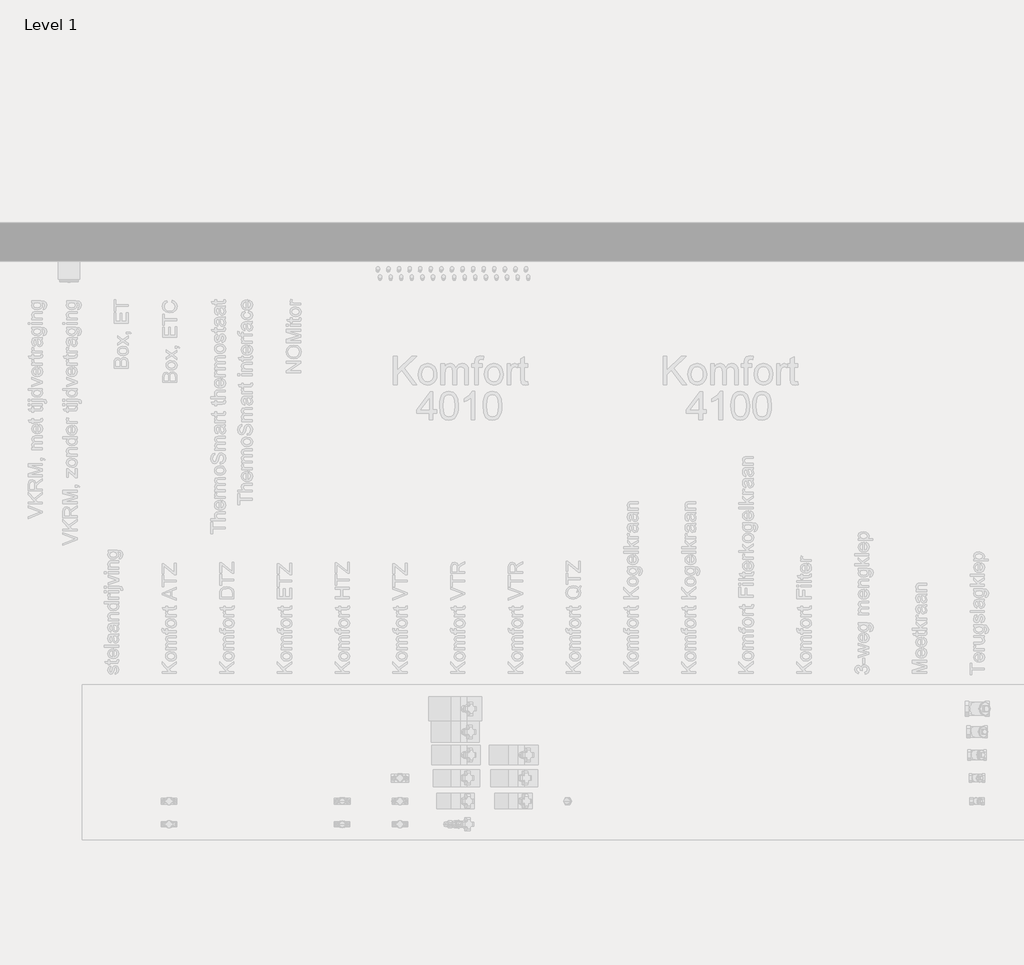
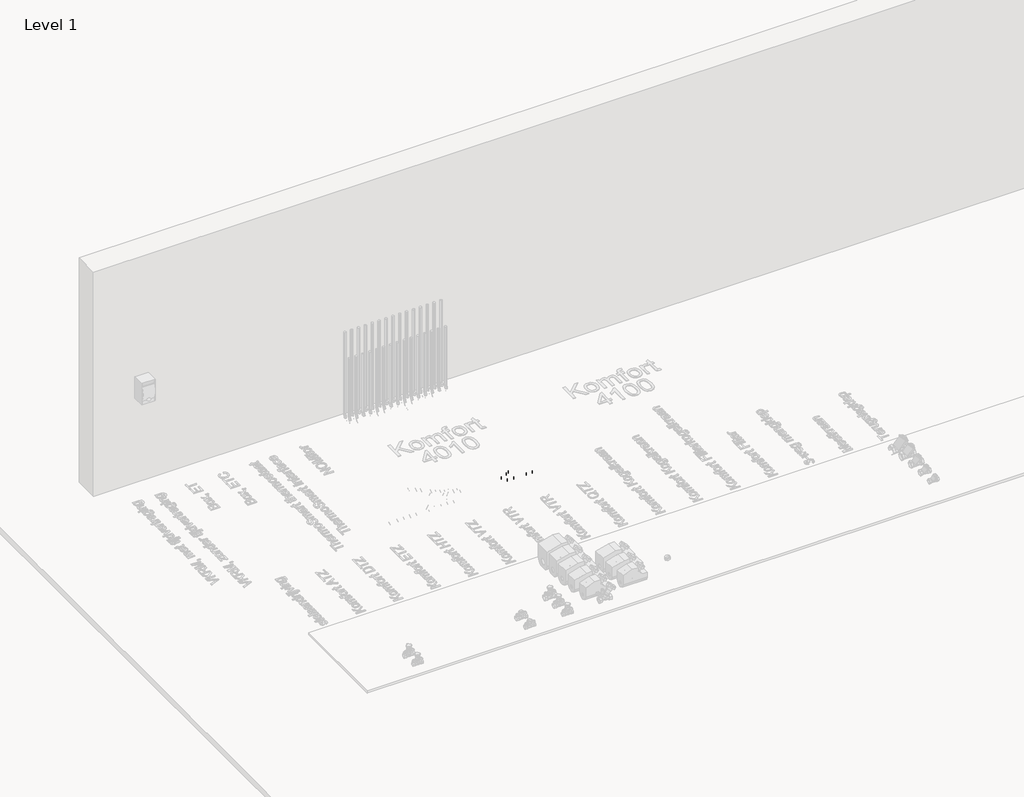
# One storey, part 3 of 34: 34 pipe segments, 32 pipe fittings.
"""IFC4 building model written with IfcOpenShell, lengths in millimetres."""

from ifc_helpers import new_model, si_unit, point, frame, frame_2d, origin, place, context, project, spatial, circle_curve, trimmed, segment, composite_curve, outline, extrude, transform, mapped, element, save
from components import comfort_pipe_plus_fd0ce3be, comfort_pipe_plus_be2692b1, comfort_pipe_plus_e7852c11, comfort_pipe_plus_088f61cb, comfort_pipe_plus_0f36303e, comfort_pipe_plus_3bb60c39, comfort_pipe_plus_d528e45b, comfort_pipe_plus_1a876405, comfort_pipe_plus_ba31a987, comfort_pipe_plus_3dcb67fc, comfort_pipe_plus_28575780, comfort_pipe_plus_d22011a4, comfort_pipe_plus_ddaea543, comfort_pipe_plus_9fd0e97e, comfort_pipe_plus_dd33a695, comfort_pipe_plus_407e4f54

model = new_model("IFC4")

# Units and contexts
model_context = context("Model", 3, world=origin())
ifc_project = project(units=[si_unit("LENGTHUNIT", "METRE", prefix="MILLI")], contexts=[model_context])

# Site, building, storey
site = spatial("IfcSite", under=ifc_project)
building = spatial("IfcBuilding", under=site)
storey = spatial("IfcBuildingStorey", under=building, Name="Level 1", Elevation=0.0)

# Pipe fittings
placement = place(None, origin())
comfort_pipe_plus_shape = comfort_pipe_plus_fd0ce3be(model_context)
element("IfcPipeFitting", 1, ObjectType="400_5-_Uponor_curved_Elbow : Comfort pipe PLUS", at=placement, inside=storey, context=model_context, shape_type="MappedRepresentation", body=[
    mapped(comfort_pipe_plus_shape, transform((-14155.7349522, 6355.7502784, -40.0), x_axis=(0.0, 1.0, 0.0), y_axis=(-1.0, 0.0, 0.0), z_axis=(0.0, 0.0, 1.0))),
])
element("IfcPipeFitting", 2, ObjectType="400_5-_Uponor_curved_Elbow : Comfort pipe PLUS", at=placement, inside=storey, context=model_context, shape_type="MappedRepresentation", body=[
    mapped(comfort_pipe_plus_shape, transform((-14481.9849522, 6605.7502784, -40.0), x_axis=(0.0, -1.0, 0.0), y_axis=(1.0, 0.0, 0.0), z_axis=(0.0, 0.0, 1.0))),
])
comfort_pipe_plus_2_shape = comfort_pipe_plus_be2692b1(model_context)
element("IfcPipeFitting", 3, ObjectType="400_5-_Uponor_curved_Elbow : Comfort pipe PLUS", at=placement, inside=storey, context=model_context, shape_type="MappedRepresentation", body=[
    mapped(comfort_pipe_plus_2_shape, transform((-14855.7349522, 6355.7502784, -40.0), x_axis=(0.0, 1.0, 0.0), y_axis=(-1.0, 0.0, 0.0), z_axis=(0.0, 0.0, 1.0))),
])
element("IfcPipeFitting", 4, ObjectType="400_5-_Uponor_curved_Elbow : Comfort pipe PLUS", at=placement, inside=storey, context=model_context, shape_type="MappedRepresentation", body=[
    mapped(comfort_pipe_plus_2_shape, transform((-14866.9849522, 6405.9403257, -40.0), x_axis=(0.0, -1.0, 0.0), y_axis=(1.0, 0.0, 0.0), z_axis=(0.0, 0.0, 1.0))),
])
comfort_pipe_plus_3_shape = comfort_pipe_plus_e7852c11(model_context)
element("IfcPipeFitting", 5, ObjectType="400_5-_Uponor_curved_Elbow : Comfort pipe PLUS", at=placement, inside=storey, context=model_context, shape_type="MappedRepresentation", body=[
    mapped(comfort_pipe_plus_3_shape, transform((-14805.7349522, 6355.7502784, -40.0), x_axis=(0.0, 1.0, 0.0), y_axis=(-1.0, 0.0, 0.0), z_axis=(0.0, 0.0, 1.0))),
])
element("IfcPipeFitting", 6, ObjectType="400_5-_Uponor_curved_Elbow : Comfort pipe PLUS", at=placement, inside=storey, context=model_context, shape_type="MappedRepresentation", body=[
    mapped(comfort_pipe_plus_3_shape, transform((-14839.4849522, 6407.4633273, -40.0), x_axis=(0.0, -1.0, 0.0), y_axis=(1.0, 0.0, 0.0), z_axis=(0.0, 0.0, 1.0))),
])
comfort_pipe_plus_4_shape = comfort_pipe_plus_088f61cb(model_context)
element("IfcPipeFitting", 7, ObjectType="400_5-_Uponor_curved_Elbow : Comfort pipe PLUS", at=placement, inside=storey, context=model_context, shape_type="MappedRepresentation", body=[
    mapped(comfort_pipe_plus_4_shape, transform((-14755.7349522, 6355.7502784, -40.0), x_axis=(0.0, 1.0, 0.0), y_axis=(-1.0, 0.0, 0.0), z_axis=(0.0, 0.0, 1.0))),
])
element("IfcPipeFitting", 8, ObjectType="400_5-_Uponor_curved_Elbow : Comfort pipe PLUS", at=placement, inside=storey, context=model_context, shape_type="MappedRepresentation", body=[
    mapped(comfort_pipe_plus_4_shape, transform((-14811.9849522, 6410.5234526, -40.0), x_axis=(0.0, -1.0, 0.0), y_axis=(1.0, 0.0, 0.0), z_axis=(0.0, 0.0, 1.0))),
])
comfort_pipe_plus_5_shape = comfort_pipe_plus_0f36303e(model_context)
element("IfcPipeFitting", 9, ObjectType="400_5-_Uponor_curved_Elbow : Comfort pipe PLUS", at=placement, inside=storey, context=model_context, shape_type="MappedRepresentation", body=[
    mapped(comfort_pipe_plus_5_shape, transform((-14705.7349522, 6355.7502784, -40.0), x_axis=(0.0, 1.0, 0.0), y_axis=(-1.0, 0.0, 0.0), z_axis=(0.0, 0.0, 1.0))),
])
element("IfcPipeFitting", 10, ObjectType="400_5-_Uponor_curved_Elbow : Comfort pipe PLUS", at=placement, inside=storey, context=model_context, shape_type="MappedRepresentation", body=[
    mapped(comfort_pipe_plus_5_shape, transform((-14784.4849522, 6415.1496116, -40.0), x_axis=(0.0, -1.0, 0.0), y_axis=(1.0, 0.0, 0.0), z_axis=(0.0, 0.0, 1.0))),
])
comfort_pipe_plus_6_shape = comfort_pipe_plus_3bb60c39(model_context)
element("IfcPipeFitting", 11, ObjectType="400_5-_Uponor_curved_Elbow : Comfort pipe PLUS", at=placement, inside=storey, context=model_context, shape_type="MappedRepresentation", body=[
    mapped(comfort_pipe_plus_6_shape, transform((-14655.7349522, 6355.7502784, -40.0), x_axis=(0.0, 1.0, 0.0), y_axis=(-1.0, 0.0, 0.0), z_axis=(0.0, 0.0, 1.0))),
])
element("IfcPipeFitting", 12, ObjectType="400_5-_Uponor_curved_Elbow : Comfort pipe PLUS", at=placement, inside=storey, context=model_context, shape_type="MappedRepresentation", body=[
    mapped(comfort_pipe_plus_6_shape, transform((-14756.9849522, 6421.386906, -40.0), x_axis=(0.0, -1.0, 0.0), y_axis=(1.0, 0.0, 0.0), z_axis=(0.0, 0.0, 1.0))),
])
comfort_pipe_plus_7_shape = comfort_pipe_plus_d528e45b(model_context)
element("IfcPipeFitting", 13, ObjectType="400_5-_Uponor_curved_Elbow : Comfort pipe PLUS", at=placement, inside=storey, context=model_context, shape_type="MappedRepresentation", body=[
    mapped(comfort_pipe_plus_7_shape, transform((-14605.7349522, 6355.7502784, -40.0), x_axis=(0.0, 1.0, 0.0), y_axis=(-1.0, 0.0, 0.0), z_axis=(0.0, 0.0, 1.0))),
])
element("IfcPipeFitting", 14, ObjectType="400_5-_Uponor_curved_Elbow : Comfort pipe PLUS", at=placement, inside=storey, context=model_context, shape_type="MappedRepresentation", body=[
    mapped(comfort_pipe_plus_7_shape, transform((-14729.4849522, 6429.2989396, -40.0), x_axis=(0.0, -1.0, 0.0), y_axis=(1.0, 0.0, 0.0), z_axis=(0.0, 0.0, 1.0))),
])
comfort_pipe_plus_8_shape = comfort_pipe_plus_1a876405(model_context)
element("IfcPipeFitting", 15, ObjectType="400_5-_Uponor_curved_Elbow : Comfort pipe PLUS", at=placement, inside=storey, context=model_context, shape_type="MappedRepresentation", body=[
    mapped(comfort_pipe_plus_8_shape, transform((-14555.7349522, 6355.7502784, -40.0), x_axis=(0.0, 1.0, 0.0), y_axis=(-1.0, 0.0, 0.0), z_axis=(0.0, 0.0, 1.0))),
])
element("IfcPipeFitting", 16, ObjectType="400_5-_Uponor_curved_Elbow : Comfort pipe PLUS", at=placement, inside=storey, context=model_context, shape_type="MappedRepresentation", body=[
    mapped(comfort_pipe_plus_8_shape, transform((-14701.9849522, 6438.9713245, -40.0), x_axis=(0.0, -1.0, 0.0), y_axis=(1.0, 0.0, 0.0), z_axis=(0.0, 0.0, 1.0))),
])
comfort_pipe_plus_9_shape = comfort_pipe_plus_ba31a987(model_context)
element("IfcPipeFitting", 17, ObjectType="400_5-_Uponor_curved_Elbow : Comfort pipe PLUS", at=placement, inside=storey, context=model_context, shape_type="MappedRepresentation", body=[
    mapped(comfort_pipe_plus_9_shape, transform((-14505.7349522, 6355.7502784, -40.0), x_axis=(0.0, 1.0, 0.0), y_axis=(-1.0, 0.0, 0.0), z_axis=(0.0, 0.0, 1.0))),
])
element("IfcPipeFitting", 18, ObjectType="400_5-_Uponor_curved_Elbow : Comfort pipe PLUS", at=placement, inside=storey, context=model_context, shape_type="MappedRepresentation", body=[
    mapped(comfort_pipe_plus_9_shape, transform((-14674.4849522, 6450.516872, -40.0), x_axis=(0.0, -1.0, 0.0), y_axis=(1.0, 0.0, 0.0), z_axis=(0.0, 0.0, 1.0))),
])
comfort_pipe_plus_10_shape = comfort_pipe_plus_3dcb67fc(model_context)
element("IfcPipeFitting", 19, ObjectType="400_5-_Uponor_curved_Elbow : Comfort pipe PLUS", at=placement, inside=storey, context=model_context, shape_type="MappedRepresentation", body=[
    mapped(comfort_pipe_plus_10_shape, transform((-14455.7349522, 6355.7502784, -40.0), x_axis=(0.0, 1.0, 0.0), y_axis=(-1.0, 0.0, 0.0), z_axis=(0.0, 0.0, 1.0))),
])
element("IfcPipeFitting", 20, ObjectType="400_5-_Uponor_curved_Elbow : Comfort pipe PLUS", at=placement, inside=storey, context=model_context, shape_type="MappedRepresentation", body=[
    mapped(comfort_pipe_plus_10_shape, transform((-14646.9849522, 6464.0832905, -40.0), x_axis=(0.0, -1.0, 0.0), y_axis=(1.0, 0.0, 0.0), z_axis=(0.0, 0.0, 1.0))),
])
comfort_pipe_plus_11_shape = comfort_pipe_plus_28575780(model_context)
element("IfcPipeFitting", 21, ObjectType="400_5-_Uponor_curved_Elbow : Comfort pipe PLUS", at=placement, inside=storey, context=model_context, shape_type="MappedRepresentation", body=[
    mapped(comfort_pipe_plus_11_shape, transform((-14405.7349522, 6355.7502784, -40.0), x_axis=(0.0, 1.0, 0.0), y_axis=(-1.0, 0.0, 0.0), z_axis=(0.0, 0.0, 1.0))),
])
element("IfcPipeFitting", 22, ObjectType="400_5-_Uponor_curved_Elbow : Comfort pipe PLUS", at=placement, inside=storey, context=model_context, shape_type="MappedRepresentation", body=[
    mapped(comfort_pipe_plus_11_shape, transform((-14619.4849522, 6479.8647962, -40.0), x_axis=(0.0, -1.0, 0.0), y_axis=(1.0, 0.0, 0.0), z_axis=(0.0, 0.0, 1.0))),
])
comfort_pipe_plus_12_shape = comfort_pipe_plus_d22011a4(model_context)
element("IfcPipeFitting", 23, ObjectType="400_5-_Uponor_curved_Elbow : Comfort pipe PLUS", at=placement, inside=storey, context=model_context, shape_type="MappedRepresentation", body=[
    mapped(comfort_pipe_plus_12_shape, transform((-14355.7349522, 6355.7502784, -40.0), x_axis=(0.0, 1.0, 0.0), y_axis=(-1.0, 0.0, 0.0), z_axis=(0.0, 0.0, 1.0))),
])
element("IfcPipeFitting", 24, ObjectType="400_5-_Uponor_curved_Elbow : Comfort pipe PLUS", at=placement, inside=storey, context=model_context, shape_type="MappedRepresentation", body=[
    mapped(comfort_pipe_plus_12_shape, transform((-14591.9849522, 6498.1201645, -40.0), x_axis=(0.0, -1.0, 0.0), y_axis=(1.0, 0.0, 0.0), z_axis=(0.0, 0.0, 1.0))),
])
comfort_pipe_plus_13_shape = comfort_pipe_plus_ddaea543(model_context)
element("IfcPipeFitting", 25, ObjectType="400_5-_Uponor_curved_Elbow : Comfort pipe PLUS", at=placement, inside=storey, context=model_context, shape_type="MappedRepresentation", body=[
    mapped(comfort_pipe_plus_13_shape, transform((-14305.7349522, 6355.7502784, -40.0), x_axis=(0.0, 1.0, 0.0), y_axis=(-1.0, 0.0, 0.0), z_axis=(0.0, 0.0, 1.0))),
])
element("IfcPipeFitting", 26, ObjectType="400_5-_Uponor_curved_Elbow : Comfort pipe PLUS", at=placement, inside=storey, context=model_context, shape_type="MappedRepresentation", body=[
    mapped(comfort_pipe_plus_13_shape, transform((-14564.4849522, 6519.2020082, -40.0), x_axis=(0.0, -1.0, 0.0), y_axis=(1.0, 0.0, 0.0), z_axis=(0.0, 0.0, 1.0))),
])
comfort_pipe_plus_14_shape = comfort_pipe_plus_9fd0e97e(model_context)
element("IfcPipeFitting", 27, ObjectType="400_5-_Uponor_curved_Elbow : Comfort pipe PLUS", at=placement, inside=storey, context=model_context, shape_type="MappedRepresentation", body=[
    mapped(comfort_pipe_plus_14_shape, transform((-14255.7349522, 6355.7502784, -40.0), x_axis=(0.0, 1.0, 0.0), y_axis=(-1.0, 0.0, 0.0), z_axis=(0.0, 0.0, 1.0))),
])
element("IfcPipeFitting", 28, ObjectType="400_5-_Uponor_curved_Elbow : Comfort pipe PLUS", at=placement, inside=storey, context=model_context, shape_type="MappedRepresentation", body=[
    mapped(comfort_pipe_plus_14_shape, transform((-14536.9849522, 6543.6070322, -40.0), x_axis=(0.0, -1.0, 0.0), y_axis=(1.0, 0.0, 0.0), z_axis=(0.0, 0.0, 1.0))),
])
comfort_pipe_plus_15_shape = comfort_pipe_plus_dd33a695(model_context)
element("IfcPipeFitting", 29, ObjectType="400_5-_Uponor_curved_Elbow : Comfort pipe PLUS", at=placement, inside=storey, context=model_context, shape_type="MappedRepresentation", body=[
    mapped(comfort_pipe_plus_15_shape, transform((-14205.7349522, 6355.7502784, -40.0), x_axis=(0.0, 1.0, 0.0), y_axis=(-1.0, 0.0, 0.0), z_axis=(0.0, 0.0, 1.0))),
])
element("IfcPipeFitting", 30, ObjectType="400_5-_Uponor_curved_Elbow : Comfort pipe PLUS", at=placement, inside=storey, context=model_context, shape_type="MappedRepresentation", body=[
    mapped(comfort_pipe_plus_15_shape, transform((-14509.4849522, 6572.0690789, -40.0), x_axis=(0.0, -1.0, 0.0), y_axis=(1.0, 0.0, 0.0), z_axis=(0.0, 0.0, 1.0))),
])
comfort_pipe_plus_16_shape = comfort_pipe_plus_407e4f54(model_context)
element("IfcPipeFitting", 31, ObjectType="400_5-_Uponor_curved_Elbow : Comfort pipe PLUS", at=placement, inside=storey, context=model_context, shape_type="MappedRepresentation", body=[
    mapped(comfort_pipe_plus_16_shape, transform((-14905.7349522, 6355.7502784, -40.0), x_axis=(0.0, 1.0, 0.0), y_axis=(-1.0, 0.0, 0.0), z_axis=(0.0, 0.0, 1.0))),
])
element("IfcPipeFitting", 32, ObjectType="400_5-_Uponor_curved_Elbow : Comfort pipe PLUS", at=placement, inside=storey, context=model_context, shape_type="MappedRepresentation", body=[
    mapped(comfort_pipe_plus_16_shape, transform((-14894.4849522, 6405.9403257, -40.0), x_axis=(0.0, -1.0, 0.0), y_axis=(1.0, 0.0, 0.0), z_axis=(0.0, 0.0, 1.0))),
])

# Pipe segments
element("IfcPipeSegment", 33, ObjectType="Uponor Comfort Pipe PLUS / VVL", at=placement, inside=storey, context=model_context, shape_type="SweptSolid", body=[
    extrude(outline(composite_curve([segment(trimmed(circle_curve(frame_2d((-40.0, -14555.7349522)), 8.5), [point((-40.0, -14564.2349522))], [point((-48.5, -14555.7349522))], False, "CARTESIAN"), True, "CONTINUOUS"), segment(trimmed(circle_curve(frame_2d((-40.0, -14555.7349522)), 8.5), [point((-48.5, -14555.7349522))], [point((-40.0, -14547.2349522))], False, "CARTESIAN"), True, "CONTINUOUS"), segment(trimmed(circle_curve(frame_2d((-40.0, -14555.7349522)), 8.5), [point((-40.0, -14547.2349522))], [point((-31.5, -14555.7349522))], False, "CARTESIAN"), True, "CONTINUOUS"), segment(trimmed(circle_curve(frame_2d((-40.0, -14555.7349522)), 8.5), [point((-31.5, -14555.7349522))], [point((-40.0, -14564.2349522))], False, "CARTESIAN"), True, "CONTINUOUS")], self_intersect=False)), frame((0.0, 6175.7502784, 0.0), z_axis=(0.0, 1.0, 0.0), x_axis=(0.0, 0.0, 1.0)), (0.0, 0.0, 1.0), 139.2927912),
])
element("IfcPipeSegment", 34, ObjectType="Uponor Comfort Pipe PLUS / VVL", at=placement, inside=storey, context=model_context, shape_type="SweptSolid", body=[
    extrude(outline(composite_curve([segment(trimmed(circle_curve(frame_2d((-40.0, -14455.7349522)), 8.5), [point((-40.0, -14464.2349522))], [point((-48.5, -14455.7349522))], False, "CARTESIAN"), True, "CONTINUOUS"), segment(trimmed(circle_curve(frame_2d((-40.0, -14455.7349522)), 8.5), [point((-48.5, -14455.7349522))], [point((-40.0, -14447.2349522))], False, "CARTESIAN"), True, "CONTINUOUS"), segment(trimmed(circle_curve(frame_2d((-40.0, -14455.7349522)), 8.5), [point((-40.0, -14447.2349522))], [point((-31.5, -14455.7349522))], False, "CARTESIAN"), True, "CONTINUOUS"), segment(trimmed(circle_curve(frame_2d((-40.0, -14455.7349522)), 8.5), [point((-31.5, -14455.7349522))], [point((-40.0, -14464.2349522))], False, "CARTESIAN"), True, "CONTINUOUS")], self_intersect=False)), frame((0.0, 6175.7502784, 0.0), z_axis=(0.0, 1.0, 0.0), x_axis=(0.0, 0.0, 1.0)), (0.0, 0.0, 1.0), 139.2011558),
])
element("IfcPipeSegment", 35, ObjectType="Uponor Comfort Pipe PLUS / VVL", at=placement, inside=storey, context=model_context, shape_type="SweptSolid", body=[
    extrude(outline(composite_curve([segment(trimmed(circle_curve(frame_2d((-40.0, -14355.7349522)), 8.5), [point((-40.0, -14364.2349522))], [point((-48.5, -14355.7349522))], False, "CARTESIAN"), True, "CONTINUOUS"), segment(trimmed(circle_curve(frame_2d((-40.0, -14355.7349522)), 8.5), [point((-48.5, -14355.7349522))], [point((-40.0, -14347.2349522))], False, "CARTESIAN"), True, "CONTINUOUS"), segment(trimmed(circle_curve(frame_2d((-40.0, -14355.7349522)), 8.5), [point((-40.0, -14347.2349522))], [point((-31.5, -14355.7349522))], False, "CARTESIAN"), True, "CONTINUOUS"), segment(trimmed(circle_curve(frame_2d((-40.0, -14355.7349522)), 8.5), [point((-31.5, -14355.7349522))], [point((-40.0, -14364.2349522))], False, "CARTESIAN"), True, "CONTINUOUS")], self_intersect=False)), frame((0.0, 6175.7502784, 0.0), z_axis=(0.0, 1.0, 0.0), x_axis=(0.0, 0.0, 1.0)), (0.0, 0.0, 1.0), 140.4556943),
])
element("IfcPipeSegment", 36, ObjectType="Uponor Comfort Pipe PLUS / VVL", at=placement, inside=storey, context=model_context, shape_type="SweptSolid", body=[
    extrude(outline(composite_curve([segment(trimmed(circle_curve(frame_2d((-40.0, -14255.7349522)), 8.5), [point((-40.0, -14264.2349522))], [point((-48.5, -14255.7349522))], False, "CARTESIAN"), True, "CONTINUOUS"), segment(trimmed(circle_curve(frame_2d((-40.0, -14255.7349522)), 8.5), [point((-48.5, -14255.7349522))], [point((-40.0, -14247.2349522))], False, "CARTESIAN"), True, "CONTINUOUS"), segment(trimmed(circle_curve(frame_2d((-40.0, -14255.7349522)), 8.5), [point((-40.0, -14247.2349522))], [point((-31.5, -14255.7349522))], False, "CARTESIAN"), True, "CONTINUOUS"), segment(trimmed(circle_curve(frame_2d((-40.0, -14255.7349522)), 8.5), [point((-31.5, -14255.7349522))], [point((-40.0, -14264.2349522))], False, "CARTESIAN"), True, "CONTINUOUS")], self_intersect=False)), frame((0.0, 6175.7502784, 0.0), z_axis=(0.0, 1.0, 0.0), x_axis=(0.0, 0.0, 1.0)), (0.0, 0.0, 1.0), 142.5766436),
])
element("IfcPipeSegment", 37, ObjectType="Uponor Comfort Pipe PLUS / VVL", at=placement, inside=storey, context=model_context, shape_type="SweptSolid", body=[
    extrude(outline(composite_curve([segment(trimmed(circle_curve(frame_2d((-40.0, -14155.7349522)), 8.5), [point((-40.0, -14164.2349522))], [point((-48.5, -14155.7349522))], False, "CARTESIAN"), True, "CONTINUOUS"), segment(trimmed(circle_curve(frame_2d((-40.0, -14155.7349522)), 8.5), [point((-48.5, -14155.7349522))], [point((-40.0, -14147.2349522))], False, "CARTESIAN"), True, "CONTINUOUS"), segment(trimmed(circle_curve(frame_2d((-40.0, -14155.7349522)), 8.5), [point((-40.0, -14147.2349522))], [point((-31.5, -14155.7349522))], False, "CARTESIAN"), True, "CONTINUOUS"), segment(trimmed(circle_curve(frame_2d((-40.0, -14155.7349522)), 8.5), [point((-31.5, -14155.7349522))], [point((-40.0, -14164.2349522))], False, "CARTESIAN"), True, "CONTINUOUS")], self_intersect=False)), frame((0.0, 6175.7502784, 0.0), z_axis=(0.0, 1.0, 0.0), x_axis=(0.0, 0.0, 1.0)), (0.0, 0.0, 1.0), 145.4512241),
])
element("IfcPipeSegment", 38, ObjectType="Uponor Comfort Pipe PLUS / VVL", at=placement, inside=storey, context=model_context, shape_type="SweptSolid", body=[
    extrude(outline(composite_curve([segment(trimmed(circle_curve(frame_2d((-40.0, -14805.7349522)), 8.5), [point((-40.0, -14814.2349522))], [point((-48.5, -14805.7349522))], False, "CARTESIAN"), True, "CONTINUOUS"), segment(trimmed(circle_curve(frame_2d((-40.0, -14805.7349522)), 8.5), [point((-48.5, -14805.7349522))], [point((-40.0, -14797.2349522))], False, "CARTESIAN"), True, "CONTINUOUS"), segment(trimmed(circle_curve(frame_2d((-40.0, -14805.7349522)), 8.5), [point((-40.0, -14797.2349522))], [point((-31.5, -14805.7349522))], False, "CARTESIAN"), True, "CONTINUOUS"), segment(trimmed(circle_curve(frame_2d((-40.0, -14805.7349522)), 8.5), [point((-31.5, -14805.7349522))], [point((-40.0, -14814.2349522))], False, "CARTESIAN"), True, "CONTINUOUS")], self_intersect=False)), frame((0.0, 6175.7502784, 0.0), z_axis=(0.0, 1.0, 0.0), x_axis=(0.0, 0.0, 1.0)), (0.0, 0.0, 1.0), 159.178599),
])
element("IfcPipeSegment", 39, ObjectType="Uponor Comfort Pipe PLUS / VVL", at=placement, inside=storey, context=model_context, shape_type="SweptSolid", body=[
    extrude(outline(composite_curve([segment(trimmed(circle_curve(frame_2d((-40.0, -14705.7349522)), 8.5), [point((-40.0, -14714.2349522))], [point((-48.5, -14705.7349522))], False, "CARTESIAN"), True, "CONTINUOUS"), segment(trimmed(circle_curve(frame_2d((-40.0, -14705.7349522)), 8.5), [point((-48.5, -14705.7349522))], [point((-40.0, -14697.2349522))], False, "CARTESIAN"), True, "CONTINUOUS"), segment(trimmed(circle_curve(frame_2d((-40.0, -14705.7349522)), 8.5), [point((-40.0, -14697.2349522))], [point((-31.5, -14705.7349522))], False, "CARTESIAN"), True, "CONTINUOUS"), segment(trimmed(circle_curve(frame_2d((-40.0, -14705.7349522)), 8.5), [point((-31.5, -14705.7349522))], [point((-40.0, -14714.2349522))], False, "CARTESIAN"), True, "CONTINUOUS")], self_intersect=False)), frame((0.0, 6175.7502784, 0.0), z_axis=(0.0, 1.0, 0.0), x_axis=(0.0, 0.0, 1.0)), (0.0, 0.0, 1.0), 145.1194357),
])
element("IfcPipeSegment", 40, ObjectType="Uponor Comfort Pipe PLUS / VVL", at=placement, inside=storey, context=model_context, shape_type="SweptSolid", body=[
    extrude(outline(composite_curve([segment(trimmed(circle_curve(frame_2d((-40.0, -14605.7349522)), 8.5), [point((-40.0, -14614.2349522))], [point((-48.5, -14605.7349522))], False, "CARTESIAN"), True, "CONTINUOUS"), segment(trimmed(circle_curve(frame_2d((-40.0, -14605.7349522)), 8.5), [point((-48.5, -14605.7349522))], [point((-40.0, -14597.2349522))], False, "CARTESIAN"), True, "CONTINUOUS"), segment(trimmed(circle_curve(frame_2d((-40.0, -14605.7349522)), 8.5), [point((-40.0, -14597.2349522))], [point((-31.5, -14605.7349522))], False, "CARTESIAN"), True, "CONTINUOUS"), segment(trimmed(circle_curve(frame_2d((-40.0, -14605.7349522)), 8.5), [point((-31.5, -14605.7349522))], [point((-40.0, -14614.2349522))], False, "CARTESIAN"), True, "CONTINUOUS")], self_intersect=False)), frame((0.0, 6175.7502784, 0.0), z_axis=(0.0, 1.0, 0.0), x_axis=(0.0, 0.0, 1.0)), (0.0, 0.0, 1.0), 140.1733552),
])
element("IfcPipeSegment", 41, ObjectType="Uponor Comfort Pipe PLUS / VVL", at=placement, inside=storey, context=model_context, shape_type="SweptSolid", body=[
    extrude(outline(composite_curve([segment(trimmed(circle_curve(frame_2d((-40.0, -14505.7349522)), 8.5), [point((-40.0, -14514.2349522))], [point((-48.5, -14505.7349522))], False, "CARTESIAN"), True, "CONTINUOUS"), segment(trimmed(circle_curve(frame_2d((-40.0, -14505.7349522)), 8.5), [point((-48.5, -14505.7349522))], [point((-40.0, -14497.2349522))], False, "CARTESIAN"), True, "CONTINUOUS"), segment(trimmed(circle_curve(frame_2d((-40.0, -14505.7349522)), 8.5), [point((-40.0, -14497.2349522))], [point((-31.5, -14505.7349522))], False, "CARTESIAN"), True, "CONTINUOUS"), segment(trimmed(circle_curve(frame_2d((-40.0, -14505.7349522)), 8.5), [point((-31.5, -14505.7349522))], [point((-40.0, -14514.2349522))], False, "CARTESIAN"), True, "CONTINUOUS")], self_intersect=False)), frame((0.0, 6175.7502784, 0.0), z_axis=(0.0, 1.0, 0.0), x_axis=(0.0, 0.0, 1.0)), (0.0, 0.0, 1.0), 139.0278227),
])
element("IfcPipeSegment", 42, ObjectType="Uponor Comfort Pipe PLUS / VVL", at=placement, inside=storey, context=model_context, shape_type="SweptSolid", body=[
    extrude(outline(composite_curve([segment(trimmed(circle_curve(frame_2d((-40.0, -14405.7349522)), 8.5), [point((-40.0, -14414.2349522))], [point((-48.5, -14405.7349522))], False, "CARTESIAN"), True, "CONTINUOUS"), segment(trimmed(circle_curve(frame_2d((-40.0, -14405.7349522)), 8.5), [point((-48.5, -14405.7349522))], [point((-40.0, -14397.2349522))], False, "CARTESIAN"), True, "CONTINUOUS"), segment(trimmed(circle_curve(frame_2d((-40.0, -14405.7349522)), 8.5), [point((-40.0, -14397.2349522))], [point((-31.5, -14405.7349522))], False, "CARTESIAN"), True, "CONTINUOUS"), segment(trimmed(circle_curve(frame_2d((-40.0, -14405.7349522)), 8.5), [point((-31.5, -14405.7349522))], [point((-40.0, -14414.2349522))], False, "CARTESIAN"), True, "CONTINUOUS")], self_intersect=False)), frame((0.0, 6175.7502784, 0.0), z_axis=(0.0, 1.0, 0.0), x_axis=(0.0, 0.0, 1.0)), (0.0, 0.0, 1.0), 139.7008192),
])
element("IfcPipeSegment", 43, ObjectType="Uponor Comfort Pipe PLUS / VVL", at=placement, inside=storey, context=model_context, shape_type="SweptSolid", body=[
    extrude(outline(composite_curve([segment(trimmed(circle_curve(frame_2d((-40.0, -14305.7349522)), 8.5), [point((-40.0, -14314.2349522))], [point((-48.5, -14305.7349522))], False, "CARTESIAN"), True, "CONTINUOUS"), segment(trimmed(circle_curve(frame_2d((-40.0, -14305.7349522)), 8.5), [point((-48.5, -14305.7349522))], [point((-40.0, -14297.2349522))], False, "CARTESIAN"), True, "CONTINUOUS"), segment(trimmed(circle_curve(frame_2d((-40.0, -14305.7349522)), 8.5), [point((-40.0, -14297.2349522))], [point((-31.5, -14305.7349522))], False, "CARTESIAN"), True, "CONTINUOUS"), segment(trimmed(circle_curve(frame_2d((-40.0, -14305.7349522)), 8.5), [point((-31.5, -14305.7349522))], [point((-40.0, -14314.2349522))], False, "CARTESIAN"), True, "CONTINUOUS")], self_intersect=False)), frame((0.0, 6175.7502784, 0.0), z_axis=(0.0, 1.0, 0.0), x_axis=(0.0, 0.0, 1.0)), (0.0, 0.0, 1.0), 141.4220591),
])
element("IfcPipeSegment", 44, ObjectType="Uponor Comfort Pipe PLUS / VVL", at=placement, inside=storey, context=model_context, shape_type="SweptSolid", body=[
    extrude(outline(composite_curve([segment(trimmed(circle_curve(frame_2d((-40.0, -14205.7349522)), 8.5), [point((-40.0, -14214.2349522))], [point((-48.5, -14205.7349522))], False, "CARTESIAN"), True, "CONTINUOUS"), segment(trimmed(circle_curve(frame_2d((-40.0, -14205.7349522)), 8.5), [point((-48.5, -14205.7349522))], [point((-40.0, -14197.2349522))], False, "CARTESIAN"), True, "CONTINUOUS"), segment(trimmed(circle_curve(frame_2d((-40.0, -14205.7349522)), 8.5), [point((-40.0, -14197.2349522))], [point((-31.5, -14205.7349522))], False, "CARTESIAN"), True, "CONTINUOUS"), segment(trimmed(circle_curve(frame_2d((-40.0, -14205.7349522)), 8.5), [point((-31.5, -14205.7349522))], [point((-40.0, -14214.2349522))], False, "CARTESIAN"), True, "CONTINUOUS")], self_intersect=False)), frame((0.0, 6175.7502784, 0.0), z_axis=(0.0, 1.0, 0.0), x_axis=(0.0, 0.0, 1.0)), (0.0, 0.0, 1.0), 143.9143697),
])
element("IfcPipeSegment", 45, ObjectType="Uponor Comfort Pipe PLUS / VVL", at=placement, inside=storey, context=model_context, shape_type="SweptSolid", body=[
    extrude(outline(composite_curve([segment(trimmed(circle_curve(frame_2d((0.0, 8.5)), 8.5), [point((8.5, 8.5))], [point((0.0, 0.0))], False, "CARTESIAN"), True, "CONTINUOUS"), segment(trimmed(circle_curve(frame_2d((0.0, 8.5)), 8.5), [point((0.0, 0.0))], [point((-8.5, 8.5))], False, "CARTESIAN"), True, "CONTINUOUS"), segment(trimmed(circle_curve(frame_2d((0.0, 8.5)), 8.5), [point((-8.5, 8.5))], [point((0.0, 17.0))], False, "CARTESIAN"), True, "CONTINUOUS"), segment(trimmed(circle_curve(frame_2d((0.0, 8.5)), 8.5), [point((0.0, 17.0))], [point((8.5, 8.5))], False, "CARTESIAN"), True, "CONTINUOUS")], self_intersect=False)), frame((-14183.1581531, 6376.7642254, -31.5), z_axis=(-0.7937531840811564, 0.6082399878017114, 0.0), x_axis=(0.6082399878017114, 0.7937531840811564, 0.0)), (0.0, 0.0, 1.0), 341.9244215),
])
element("IfcPipeSegment", 46, ObjectType="Uponor Comfort Pipe PLUS / VVL", at=placement, inside=storey, context=model_context, shape_type="SweptSolid", body=[
    extrude(outline(composite_curve([segment(trimmed(circle_curve(frame_2d((0.0, 8.5)), 8.5), [point((8.5000001, 8.5))], [point((0.0, 0.0))], False, "CARTESIAN"), True, "CONTINUOUS"), segment(trimmed(circle_curve(frame_2d((0.0, 8.5)), 8.5), [point((0.0, 0.0))], [point((-8.5, 8.5))], False, "CARTESIAN"), True, "CONTINUOUS"), segment(trimmed(circle_curve(frame_2d((0.0, 8.5)), 8.5), [point((-8.5, 8.5))], [point((0.0, 17.0))], False, "CARTESIAN"), True, "CONTINUOUS"), segment(trimmed(circle_curve(frame_2d((0.0, 8.5)), 8.5), [point((0.0, 17.0))], [point((8.5000001, 8.5))], False, "CARTESIAN"), True, "CONTINUOUS")], self_intersect=False)), frame((-14857.429829, 6363.3116957, -31.5), z_axis=(-0.21872083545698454, 0.9757874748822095, 0.0), x_axis=(0.9757874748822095, 0.21872083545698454, 0.0)), (0.0, 0.0, 1.0), 35.9373467),
])
element("IfcPipeSegment", 47, ObjectType="Uponor Comfort Pipe PLUS / VVL", at=placement, inside=storey, context=model_context, shape_type="SweptSolid", body=[
    extrude(outline(composite_curve([segment(trimmed(circle_curve(frame_2d((0.0, 8.5)), 8.5), [point((8.5, 8.5))], [point((0.0, 0.0))], False, "CARTESIAN"), True, "CONTINUOUS"), segment(trimmed(circle_curve(frame_2d((0.0, 8.5)), 8.5), [point((0.0, 0.0))], [point((-8.5, 8.5))], False, "CARTESIAN"), True, "CONTINUOUS"), segment(trimmed(circle_curve(frame_2d((0.0, 8.5)), 8.5), [point((-8.5, 8.5))], [point((0.0, 17.0))], False, "CARTESIAN"), True, "CONTINUOUS"), segment(trimmed(circle_curve(frame_2d((0.0, 8.5)), 8.5), [point((0.0, 17.0))], [point((8.5, 8.5))], False, "CARTESIAN"), True, "CONTINUOUS")], self_intersect=False)), frame((-14817.1147129, 6373.1867856, -31.5), z_axis=(-0.5465415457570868, 0.8374319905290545, 0.0), x_axis=(0.8374319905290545, 0.5465415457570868, 0.0)), (0.0, 0.0, 1.0), 20.1091367),
])
element("IfcPipeSegment", 48, ObjectType="Uponor Comfort Pipe PLUS / VVL", at=placement, inside=storey, context=model_context, shape_type="SweptSolid", body=[
    extrude(outline(composite_curve([segment(trimmed(circle_curve(frame_2d((0.0, 8.5)), 8.5), [point((8.5000001, 8.5))], [point((0.0, 0.0))], False, "CARTESIAN"), True, "CONTINUOUS"), segment(trimmed(circle_curve(frame_2d((0.0, 8.5)), 8.5), [point((0.0, 0.0))], [point((-8.5, 8.5))], False, "CARTESIAN"), True, "CONTINUOUS"), segment(trimmed(circle_curve(frame_2d((0.0, 8.5)), 8.5), [point((-8.5, 8.5))], [point((0.0, 17.0))], False, "CARTESIAN"), True, "CONTINUOUS"), segment(trimmed(circle_curve(frame_2d((0.0, 8.5)), 8.5), [point((0.0, 17.0))], [point((8.5000001, 8.5))], False, "CARTESIAN"), True, "CONTINUOUS")], self_intersect=False)), frame((-14776.9002112, 6376.3598502, -31.5), z_axis=(-0.7164493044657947, 0.6976391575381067, 0.0), x_axis=(0.6976391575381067, 0.7164493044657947, 0.0)), (0.0, 0.0, 1.0), 19.4284257),
])
element("IfcPipeSegment", 49, ObjectType="Uponor Comfort Pipe PLUS / VVL", at=placement, inside=storey, context=model_context, shape_type="SweptSolid", body=[
    extrude(outline(composite_curve([segment(trimmed(circle_curve(frame_2d((0.0, 8.5)), 8.5), [point((8.5000001, 8.5))], [point((0.0, 0.0))], False, "CARTESIAN"), True, "CONTINUOUS"), segment(trimmed(circle_curve(frame_2d((0.0, 8.5)), 8.5), [point((0.0, 0.0))], [point((-8.4999999, 8.5))], False, "CARTESIAN"), True, "CONTINUOUS"), segment(trimmed(circle_curve(frame_2d((0.0, 8.5)), 8.5), [point((-8.4999999, 8.5))], [point((0.0, 17.0))], False, "CARTESIAN"), True, "CONTINUOUS"), segment(trimmed(circle_curve(frame_2d((0.0, 8.5)), 8.5), [point((0.0, 17.0))], [point((8.5000001, 8.5))], False, "CARTESIAN"), True, "CONTINUOUS")], self_intersect=False)), frame((-14733.5821271, 6376.7547687, -31.5), z_axis=(-0.7983579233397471, 0.6021832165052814, 0.0), x_axis=(0.6021832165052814, 0.7983579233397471, 0.0)), (0.0, 0.0, 1.0), 28.8788395),
])
element("IfcPipeSegment", 50, ObjectType="Uponor Comfort Pipe PLUS / VVL", at=placement, inside=storey, context=model_context, shape_type="SweptSolid", body=[
    extrude(outline(composite_curve([segment(trimmed(circle_curve(frame_2d((0.0, 8.5)), 8.5), [point((8.5, 8.5))], [point((0.0, 0.0))], False, "CARTESIAN"), True, "CONTINUOUS"), segment(trimmed(circle_curve(frame_2d((0.0, 8.5)), 8.5), [point((0.0, 0.0))], [point((-8.5, 8.5))], False, "CARTESIAN"), True, "CONTINUOUS"), segment(trimmed(circle_curve(frame_2d((0.0, 8.5)), 8.5), [point((-8.5, 8.5))], [point((0.0, 17.0))], False, "CARTESIAN"), True, "CONTINUOUS"), segment(trimmed(circle_curve(frame_2d((0.0, 8.5)), 8.5), [point((0.0, 17.0))], [point((8.5, 8.5))], False, "CARTESIAN"), True, "CONTINUOUS")], self_intersect=False)), frame((-14687.6575205, 6376.4444979, -31.5), z_axis=(-0.8391090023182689, 0.543963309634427, 0.0), x_axis=(0.543963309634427, 0.8391090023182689, 0.0)), (0.0, 0.0, 1.0), 44.5768824),
])
element("IfcPipeSegment", 51, ObjectType="Uponor Comfort Pipe PLUS / VVL", at=placement, inside=storey, context=model_context, shape_type="SweptSolid", body=[
    extrude(outline(composite_curve([segment(trimmed(circle_curve(frame_2d((0.0, 8.5)), 8.5), [point((8.5, 8.5))], [point((0.0, 0.0))], False, "CARTESIAN"), True, "CONTINUOUS"), segment(trimmed(circle_curve(frame_2d((0.0, 8.5)), 8.5), [point((0.0, 0.0))], [point((-8.5, 8.5))], False, "CARTESIAN"), True, "CONTINUOUS"), segment(trimmed(circle_curve(frame_2d((0.0, 8.5)), 8.5), [point((-8.5, 8.5))], [point((0.0, 17.0))], False, "CARTESIAN"), True, "CONTINUOUS"), segment(trimmed(circle_curve(frame_2d((0.0, 8.5)), 8.5), [point((0.0, 17.0))], [point((8.5, 8.5))], False, "CARTESIAN"), True, "CONTINUOUS")], self_intersect=False)), frame((-14639.9713221, 6376.0980697, -31.5), z_axis=(-0.8596348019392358, 0.5109090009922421, 0.0), x_axis=(0.5109090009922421, 0.8596348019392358, 0.0)), (0.0, 0.0, 1.0), 64.3031902),
])
element("IfcPipeSegment", 52, ObjectType="Uponor Comfort Pipe PLUS / VVL", at=placement, inside=storey, context=model_context, shape_type="SweptSolid", body=[
    extrude(outline(composite_curve([segment(trimmed(circle_curve(frame_2d((0.0, 8.5)), 8.5), [point((8.5, 8.5))], [point((0.0, 0.0))], False, "CARTESIAN"), True, "CONTINUOUS"), segment(trimmed(circle_curve(frame_2d((0.0, 8.5)), 8.5), [point((0.0, 0.0))], [point((-8.5000001, 8.5))], False, "CARTESIAN"), True, "CONTINUOUS"), segment(trimmed(circle_curve(frame_2d((0.0, 8.5)), 8.5), [point((-8.5000001, 8.5))], [point((0.0, 17.0))], False, "CARTESIAN"), True, "CONTINUOUS"), segment(trimmed(circle_curve(frame_2d((0.0, 8.5)), 8.5), [point((0.0, 17.0))], [point((8.5, 8.5))], False, "CARTESIAN"), True, "CONTINUOUS")], self_intersect=False)), frame((-14591.1151627, 6375.8827784, -31.5), z_axis=(-0.8691386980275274, 0.49456842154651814, 0.0), x_axis=(0.49456842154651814, 0.8691386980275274, 0.0)), (0.0, 0.0, 1.0), 86.8556183),
])
element("IfcPipeSegment", 53, ObjectType="Uponor Comfort Pipe PLUS / VVL", at=placement, inside=storey, context=model_context, shape_type="SweptSolid", body=[
    extrude(outline(composite_curve([segment(trimmed(circle_curve(frame_2d((0.0, 8.5)), 8.5), [point((8.5, 8.5))], [point((0.0, 0.0))], False, "CARTESIAN"), True, "CONTINUOUS"), segment(trimmed(circle_curve(frame_2d((0.0, 8.5)), 8.5), [point((0.0, 0.0))], [point((-8.5, 8.5))], False, "CARTESIAN"), True, "CONTINUOUS"), segment(trimmed(circle_curve(frame_2d((0.0, 8.5)), 8.5), [point((-8.5, 8.5))], [point((0.0, 17.0))], False, "CARTESIAN"), True, "CONTINUOUS"), segment(trimmed(circle_curve(frame_2d((0.0, 8.5)), 8.5), [point((0.0, 17.0))], [point((8.5, 8.5))], False, "CARTESIAN"), True, "CONTINUOUS")], self_intersect=False)), frame((-14541.4593376, 6375.8123721, -31.5), z_axis=(-0.8719181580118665, 0.48965163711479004, 0.0), x_axis=(0.48965163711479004, 0.8719181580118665, 0.0)), (0.0, 0.0, 1.0), 111.5944522),
])
element("IfcPipeSegment", 54, ObjectType="Uponor Comfort Pipe PLUS / VVL", at=placement, inside=storey, context=model_context, shape_type="SweptSolid", body=[
    extrude(outline(composite_curve([segment(trimmed(circle_curve(frame_2d((0.0, 8.5)), 8.5), [point((8.4999999, 8.5))], [point((0.0, 0.0))], False, "CARTESIAN"), True, "CONTINUOUS"), segment(trimmed(circle_curve(frame_2d((0.0, 8.5)), 8.5), [point((0.0, 0.0))], [point((-8.5000001, 8.5))], False, "CARTESIAN"), True, "CONTINUOUS"), segment(trimmed(circle_curve(frame_2d((0.0, 8.5)), 8.5), [point((-8.5000001, 8.5))], [point((0.0, 17.0))], False, "CARTESIAN"), True, "CONTINUOUS"), segment(trimmed(circle_curve(frame_2d((0.0, 8.5)), 8.5), [point((0.0, 17.0))], [point((8.4999999, 8.5))], False, "CARTESIAN"), True, "CONTINUOUS")], self_intersect=False)), frame((-14491.2341943, 6375.8587219, -31.5), z_axis=(-0.8701041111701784, 0.4928679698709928, 0.0), x_axis=(0.4928679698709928, 0.8701041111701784, 0.0)), (0.0, 0.0, 1.0), 138.2035945),
])
element("IfcPipeSegment", 55, ObjectType="Uponor Comfort Pipe PLUS / VVL", at=placement, inside=storey, context=model_context, shape_type="SweptSolid", body=[
    extrude(outline(composite_curve([segment(trimmed(circle_curve(frame_2d((0.0, 8.5)), 8.5), [point((8.5, 8.5))], [point((0.0, 0.0))], False, "CARTESIAN"), True, "CONTINUOUS"), segment(trimmed(circle_curve(frame_2d((0.0, 8.5)), 8.5), [point((0.0, 0.0))], [point((-8.5, 8.5))], False, "CARTESIAN"), True, "CONTINUOUS"), segment(trimmed(circle_curve(frame_2d((0.0, 8.5)), 8.5), [point((-8.5, 8.5))], [point((0.0, 17.0))], False, "CARTESIAN"), True, "CONTINUOUS"), segment(trimmed(circle_curve(frame_2d((0.0, 8.5)), 8.5), [point((0.0, 17.0))], [point((8.5, 8.5))], False, "CARTESIAN"), True, "CONTINUOUS")], self_intersect=False)), frame((-14440.585124, 6375.9861252, -31.5), z_axis=(-0.8647861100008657, 0.5021404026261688, 0.0), x_axis=(0.5021404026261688, 0.8647861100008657, 0.0)), (0.0, 0.0, 1.0), 166.5725833),
])
element("IfcPipeSegment", 56, ObjectType="Uponor Comfort Pipe PLUS / VVL", at=placement, inside=storey, context=model_context, shape_type="SweptSolid", body=[
    extrude(outline(composite_curve([segment(trimmed(circle_curve(frame_2d((0.0, 8.5)), 8.5), [point((8.5000001, 8.5))], [point((0.0, 0.0))], False, "CARTESIAN"), True, "CONTINUOUS"), segment(trimmed(circle_curve(frame_2d((0.0, 8.5)), 8.5), [point((0.0, 0.0))], [point((-8.5, 8.5))], False, "CARTESIAN"), True, "CONTINUOUS"), segment(trimmed(circle_curve(frame_2d((0.0, 8.5)), 8.5), [point((-8.5, 8.5))], [point((0.0, 17.0))], False, "CARTESIAN"), True, "CONTINUOUS"), segment(trimmed(circle_curve(frame_2d((0.0, 8.5)), 8.5), [point((0.0, 17.0))], [point((8.5000001, 8.5))], False, "CARTESIAN"), True, "CONTINUOUS")], self_intersect=False)), frame((-14389.6046447, 6376.160963, -31.5), z_axis=(-0.8564998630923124, 0.5161472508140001, 0.0), x_axis=(0.5161472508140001, 0.8564998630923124, 0.0)), (0.0, 0.0, 1.0), 196.7433065),
])
element("IfcPipeSegment", 57, ObjectType="Uponor Comfort Pipe PLUS / VVL", at=placement, inside=storey, context=model_context, shape_type="SweptSolid", body=[
    extrude(outline(composite_curve([segment(trimmed(circle_curve(frame_2d((0.0, 8.5)), 8.5), [point((8.5, 8.5))], [point((0.0, 0.0))], False, "CARTESIAN"), True, "CONTINUOUS"), segment(trimmed(circle_curve(frame_2d((0.0, 8.5)), 8.5), [point((0.0, 0.0))], [point((-8.5, 8.5))], False, "CARTESIAN"), True, "CONTINUOUS"), segment(trimmed(circle_curve(frame_2d((0.0, 8.5)), 8.5), [point((-8.5, 8.5))], [point((0.0, 17.0))], False, "CARTESIAN"), True, "CONTINUOUS"), segment(trimmed(circle_curve(frame_2d((0.0, 8.5)), 8.5), [point((0.0, 17.0))], [point((8.5, 8.5))], False, "CARTESIAN"), True, "CONTINUOUS")], self_intersect=False)), frame((-14338.3504272, 6376.3533926, -31.5), z_axis=(-0.8454436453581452, 0.5340646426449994, 0.0), x_axis=(0.5340646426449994, 0.8454436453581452, 0.0)), (0.0, 0.0, 1.0), 228.896451),
])
element("IfcPipeSegment", 58, ObjectType="Uponor Comfort Pipe PLUS / VVL", at=placement, inside=storey, context=model_context, shape_type="SweptSolid", body=[
    extrude(outline(composite_curve([segment(trimmed(circle_curve(frame_2d((0.0, 8.5)), 8.5), [point((8.5, 8.5))], [point((0.0, 0.0))], False, "CARTESIAN"), True, "CONTINUOUS"), segment(trimmed(circle_curve(frame_2d((0.0, 8.5)), 8.5), [point((0.0, 0.0))], [point((-8.5, 8.5))], False, "CARTESIAN"), True, "CONTINUOUS"), segment(trimmed(circle_curve(frame_2d((0.0, 8.5)), 8.5), [point((-8.5, 8.5))], [point((0.0, 17.0))], False, "CARTESIAN"), True, "CONTINUOUS"), segment(trimmed(circle_curve(frame_2d((0.0, 8.5)), 8.5), [point((0.0, 17.0))], [point((8.5, 8.5))], False, "CARTESIAN"), True, "CONTINUOUS")], self_intersect=False)), frame((-14286.8548361, 6376.5363419, -31.5), z_axis=(-0.8315631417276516, 0.5554302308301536, 0.0), x_axis=(0.5554302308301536, 0.8315631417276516, 0.0)), (0.0, 0.0, 1.0), 263.3717409),
])
element("IfcPipeSegment", 59, ObjectType="Uponor Comfort Pipe PLUS / VVL", at=placement, inside=storey, context=model_context, shape_type="SweptSolid", body=[
    extrude(outline(composite_curve([segment(trimmed(circle_curve(frame_2d((0.0, 8.5)), 8.5), [point((8.5, 8.5))], [point((0.0, 0.0))], False, "CARTESIAN"), True, "CONTINUOUS"), segment(trimmed(circle_curve(frame_2d((0.0, 8.5)), 8.5), [point((0.0, 0.0))], [point((-8.5, 8.5))], False, "CARTESIAN"), True, "CONTINUOUS"), segment(trimmed(circle_curve(frame_2d((0.0, 8.5)), 8.5), [point((-8.5, 8.5))], [point((0.0, 17.0))], False, "CARTESIAN"), True, "CONTINUOUS"), segment(trimmed(circle_curve(frame_2d((0.0, 8.5)), 8.5), [point((0.0, 17.0))], [point((8.5, 8.5))], False, "CARTESIAN"), True, "CONTINUOUS")], self_intersect=False)), frame((-14235.1285516, 6376.6832435, -31.5), z_axis=(-0.8145513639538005, 0.5800914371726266, 0.0), x_axis=(0.5800914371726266, 0.8145513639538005, 0.0)), (0.0, 0.0, 1.0), 300.7334001),
])
element("IfcPipeSegment", 60, ObjectType="Uponor Comfort Pipe PLUS / VVL", at=placement, inside=storey, context=model_context, shape_type="SweptSolid", body=[
    extrude(outline(composite_curve([segment(trimmed(circle_curve(frame_2d((-40.0, -14894.4849522)), 8.5), [point((-40.0, -14902.9849522))], [point((-48.5, -14894.4849522))], False, "CARTESIAN"), True, "CONTINUOUS"), segment(trimmed(circle_curve(frame_2d((-40.0, -14894.4849522)), 8.5), [point((-48.5, -14894.4849522))], [point((-40.0, -14885.9849522))], False, "CARTESIAN"), True, "CONTINUOUS"), segment(trimmed(circle_curve(frame_2d((-40.0, -14894.4849522)), 8.5), [point((-40.0, -14885.9849522))], [point((-31.5, -14894.4849522))], False, "CARTESIAN"), True, "CONTINUOUS"), segment(trimmed(circle_curve(frame_2d((-40.0, -14894.4849522)), 8.5), [point((-31.5, -14894.4849522))], [point((-40.0, -14902.9849522))], False, "CARTESIAN"), True, "CONTINUOUS")], self_intersect=False)), frame((0.0, 6413.6893669, 0.0), z_axis=(0.0, 1.0, 0.0), x_axis=(0.0, 0.0, 1.0)), (0.0, 0.0, 1.0), 292.0609115),
])
element("IfcPipeSegment", 61, ObjectType="Uponor Comfort Pipe PLUS / VVL", at=placement, inside=storey, context=model_context, shape_type="SweptSolid", body=[
    extrude(outline(composite_curve([segment(trimmed(circle_curve(frame_2d((-40.0, -14949.4849522)), 8.5), [point((-40.0, -14957.9849522))], [point((-48.5, -14949.4849522))], False, "CARTESIAN"), True, "CONTINUOUS"), segment(trimmed(circle_curve(frame_2d((-40.0, -14949.4849522)), 8.5), [point((-48.5, -14949.4849522))], [point((-40.0, -14940.9849522))], False, "CARTESIAN"), True, "CONTINUOUS"), segment(trimmed(circle_curve(frame_2d((-40.0, -14949.4849522)), 8.5), [point((-40.0, -14940.9849522))], [point((-31.5, -14949.4849522))], False, "CARTESIAN"), True, "CONTINUOUS"), segment(trimmed(circle_curve(frame_2d((-40.0, -14949.4849522)), 8.5), [point((-31.5, -14949.4849522))], [point((-40.0, -14957.9849522))], False, "CARTESIAN"), True, "CONTINUOUS")], self_intersect=False)), frame((0.0, 6440.0653321, 0.0), z_axis=(0.0, 1.0, 0.0), x_axis=(0.0, 0.0, 1.0)), (0.0, 0.0, 1.0), 265.6849463),
])
element("IfcPipeSegment", 62, ObjectType="Uponor Comfort Pipe PLUS / VVL", at=placement, inside=storey, context=model_context, shape_type="SweptSolid", body=[
    extrude(outline(composite_curve([segment(trimmed(circle_curve(frame_2d((-40.0, -14921.9849522)), 8.5), [point((-40.0, -14930.4849522))], [point((-48.5, -14921.9849522))], False, "CARTESIAN"), True, "CONTINUOUS"), segment(trimmed(circle_curve(frame_2d((-40.0, -14921.9849522)), 8.5), [point((-48.5, -14921.9849522))], [point((-40.0, -14913.4849522))], False, "CARTESIAN"), True, "CONTINUOUS"), segment(trimmed(circle_curve(frame_2d((-40.0, -14921.9849522)), 8.5), [point((-40.0, -14913.4849522))], [point((-31.5, -14921.9849522))], False, "CARTESIAN"), True, "CONTINUOUS"), segment(trimmed(circle_curve(frame_2d((-40.0, -14921.9849522)), 8.5), [point((-31.5, -14921.9849522))], [point((-40.0, -14930.4849522))], False, "CARTESIAN"), True, "CONTINUOUS")], self_intersect=False)), frame((0.0, 6428.2847282, 0.0), z_axis=(0.0, 1.0, 0.0), x_axis=(0.0, 0.0, 1.0)), (0.0, 0.0, 1.0), 277.4655501),
])
element("IfcPipeSegment", 63, ObjectType="Uponor Comfort Pipe PLUS / VVL", at=placement, inside=storey, context=model_context, shape_type="SweptSolid", body=[
    extrude(outline(composite_curve([segment(trimmed(circle_curve(frame_2d((-40.0, -14976.9849522)), 8.5), [point((-40.0, -14985.4849522))], [point((-48.5, -14976.9849522))], False, "CARTESIAN"), True, "CONTINUOUS"), segment(trimmed(circle_curve(frame_2d((-40.0, -14976.9849522)), 8.5), [point((-48.5, -14976.9849522))], [point((-40.0, -14968.4849522))], False, "CARTESIAN"), True, "CONTINUOUS"), segment(trimmed(circle_curve(frame_2d((-40.0, -14976.9849522)), 8.5), [point((-40.0, -14968.4849522))], [point((-31.5, -14976.9849522))], False, "CARTESIAN"), True, "CONTINUOUS"), segment(trimmed(circle_curve(frame_2d((-40.0, -14976.9849522)), 8.5), [point((-31.5, -14976.9849522))], [point((-40.0, -14985.4849522))], False, "CARTESIAN"), True, "CONTINUOUS")], self_intersect=False)), frame((0.0, 6450.0301758, 0.0), z_axis=(0.0, 1.0, 0.0), x_axis=(0.0, 0.0, 1.0)), (0.0, 0.0, 1.0), 255.7201025),
])
element("IfcPipeSegment", 64, ObjectType="Uponor Comfort Pipe PLUS / VVL", at=placement, inside=storey, context=model_context, shape_type="SweptSolid", body=[
    extrude(outline(composite_curve([segment(trimmed(circle_curve(frame_2d((-40.0, -14905.7349522)), 8.5), [point((-40.0, -14914.2349522))], [point((-48.5, -14905.7349522))], False, "CARTESIAN"), True, "CONTINUOUS"), segment(trimmed(circle_curve(frame_2d((-40.0, -14905.7349522)), 8.5), [point((-48.5, -14905.7349522))], [point((-40.0, -14897.2349522))], False, "CARTESIAN"), True, "CONTINUOUS"), segment(trimmed(circle_curve(frame_2d((-40.0, -14905.7349522)), 8.5), [point((-40.0, -14897.2349522))], [point((-31.5, -14905.7349522))], False, "CARTESIAN"), True, "CONTINUOUS"), segment(trimmed(circle_curve(frame_2d((-40.0, -14905.7349522)), 8.5), [point((-31.5, -14905.7349522))], [point((-40.0, -14914.2349522))], False, "CARTESIAN"), True, "CONTINUOUS")], self_intersect=False)), frame((0.0, 6175.7502784, 0.0), z_axis=(0.0, 1.0, 0.0), x_axis=(0.0, 0.0, 1.0)), (0.0, 0.0, 1.0), 172.2509588),
])
element("IfcPipeSegment", 65, ObjectType="Uponor Comfort Pipe PLUS / VVL", at=placement, inside=storey, context=model_context, shape_type="SweptSolid", body=[
    extrude(outline(composite_curve([segment(trimmed(circle_curve(frame_2d((-40.0, -14955.7349522)), 8.5), [point((-40.0, -14964.2349522))], [point((-48.5, -14955.7349522))], False, "CARTESIAN"), True, "CONTINUOUS"), segment(trimmed(circle_curve(frame_2d((-40.0, -14955.7349522)), 8.5), [point((-48.5, -14955.7349522))], [point((-40.0, -14947.2349522))], False, "CARTESIAN"), True, "CONTINUOUS"), segment(trimmed(circle_curve(frame_2d((-40.0, -14955.7349522)), 8.5), [point((-40.0, -14947.2349522))], [point((-31.5, -14955.7349522))], False, "CARTESIAN"), True, "CONTINUOUS"), segment(trimmed(circle_curve(frame_2d((-40.0, -14955.7349522)), 8.5), [point((-31.5, -14955.7349522))], [point((-40.0, -14964.2349522))], False, "CARTESIAN"), True, "CONTINUOUS")], self_intersect=False)), frame((0.0, 6175.7502784, 0.0), z_axis=(0.0, 1.0, 0.0), x_axis=(0.0, 0.0, 1.0)), (0.0, 0.0, 1.0), 159.178599),
])
element("IfcPipeSegment", 66, ObjectType="Uponor Comfort Pipe PLUS / VVL", at=placement, inside=storey, context=model_context, shape_type="SweptSolid", body=[
    extrude(outline(composite_curve([segment(trimmed(circle_curve(frame_2d((0.0, 8.5)), 8.5), [point((8.5000001, 8.5))], [point((0.0, 0.0))], False, "CARTESIAN"), True, "CONTINUOUS"), segment(trimmed(circle_curve(frame_2d((0.0, 8.5)), 8.5), [point((0.0, 0.0))], [point((-8.5, 8.5))], False, "CARTESIAN"), True, "CONTINUOUS"), segment(trimmed(circle_curve(frame_2d((0.0, 8.5)), 8.5), [point((-8.5, 8.5))], [point((0.0, 17.0))], False, "CARTESIAN"), True, "CONTINUOUS"), segment(trimmed(circle_curve(frame_2d((0.0, 8.5)), 8.5), [point((0.0, 17.0))], [point((8.5000001, 8.5))], False, "CARTESIAN"), True, "CONTINUOUS")], self_intersect=False)), frame((-14904.0400755, 6363.3116957, -31.5), z_axis=(0.21872083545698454, 0.9757874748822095, 0.0), x_axis=(0.9757874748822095, -0.21872083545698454, 0.0)), (0.0, 0.0, 1.0), 35.9373467),
])

save(model, "model.ifc")
